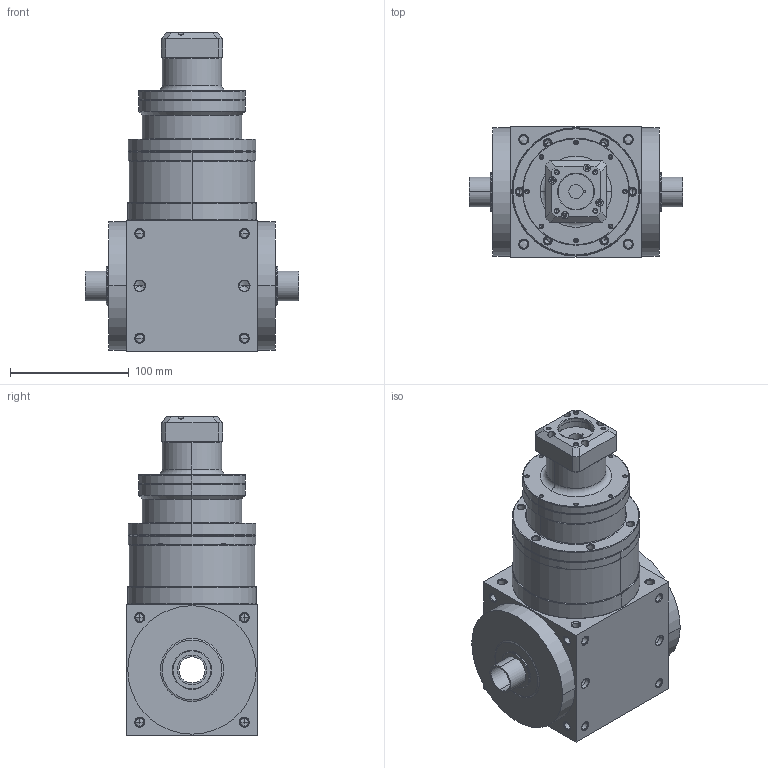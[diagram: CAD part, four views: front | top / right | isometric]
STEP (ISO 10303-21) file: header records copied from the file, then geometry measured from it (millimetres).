
FILE_DESCRIPTION((''),'2;1');
FILE_NAME('AT110FC3-P0405100202_ASM','2009-02-06T',('d00176'),(''),'PRO/ENGINEER BY PARAMETRIC TECHNOLOGY CORPORATION, 2006170','PRO/ENGINEER BY PARAMETRIC TECHNOLOGY CORPORATION, 2006170','');
FILE_SCHEMA(('CONFIG_CONTROL_DESIGN'));
Length unit declared in the file: millimetre
Products named in the file (6): ATFC-HOUSING-3-5; P1801500001; P0226500002; P0227500001; P0405100202; AT110FC3-P0405100202_ASM
Assembly tree (5 placements, depth 2):
  AT110FC3-P0405100202_ASM
    ATFC-HOUSING-3-5
    P1801500001
    P0226500002
    P0227500001
    P0405100202
Bounding box: 180 x 110 x 268 mm (x, y, z)
Volume: 2152425.4 mm3; surface area: 261386.6 mm2
Topology: 5 solids, 51 shells, 928 faces, 2252 edges, 1331 vertices
Faces by surface type: cylinder 402, cone 346, plane 120, torus 56, bspline 4
Entity records: 27686 total; most frequent: CARTESIAN_POINT 5700, DIRECTION 5032, ORIENTED_EDGE 4116, EDGE_CURVE 2150, AXIS2_PLACEMENT_3D 2119, VERTEX_POINT 1331, CIRCLE 1174, EDGE_LOOP 1119
